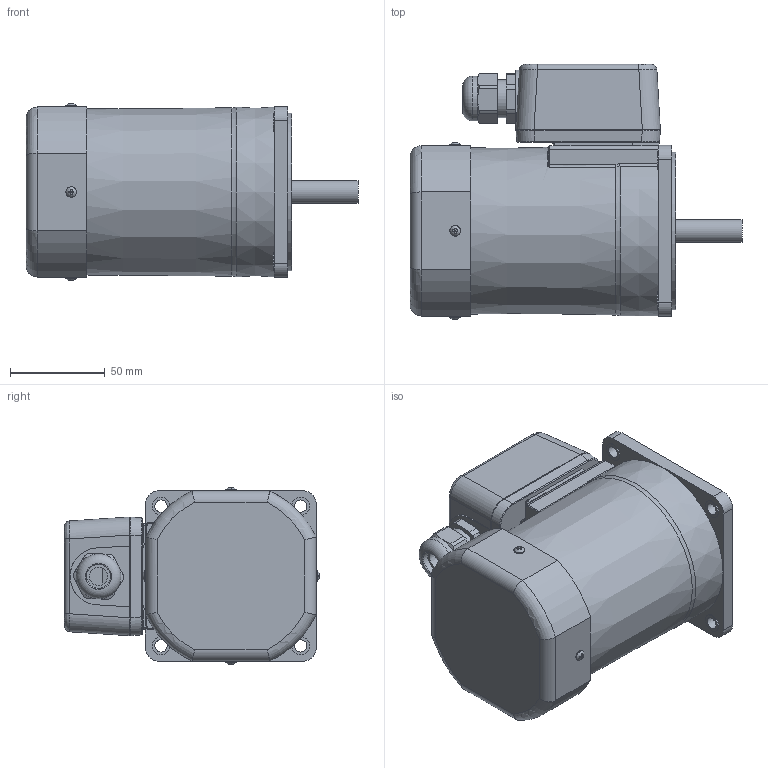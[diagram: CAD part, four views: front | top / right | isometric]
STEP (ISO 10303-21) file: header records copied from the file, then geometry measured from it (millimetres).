
FILE_DESCRIPTION((''),'2;1');
FILE_NAME('D:\STP파일\90W MOTOR\T BOX TYPE\S9I90S-T.stp','2013-05-20T18:49:26',('leebh'),(''),'Autodesk Inventor 2011','Autodesk Inventor 2011','');
FILE_SCHEMA(('AUTOMOTIVE_DESIGN { 1 0 10303 214 1 1 1 1 }'));
Length unit declared in the file: millimetre
Products named in the file (1): S9I90G-T1
Bounding box: 174.8 x 134.44 x 93.49 mm (x, y, z)
Volume: 1087757.8 mm3; surface area: 83530.2 mm2
Topology: 1 solids, 13 shells, 473 faces, 1160 edges, 738 vertices
Faces by surface type: plane 253, cylinder 124, bspline 55, torus 33, cone 8
Full cylindrical faces by diameter (mm): 2.55 x2, 3 x4, 3.5 x4, 5.6 x8, 6.3 x4, 6.5 x4, 9.5 x4, 12 x1, 12.5 x1, 15 x1, 20 x2, 21 x1, 23.6 x1, 40 x1, 83 x1
Entity records: 15906 total; most frequent: CARTESIAN_POINT 5018, ORIENTED_EDGE 2138, DIRECTION 2034, EDGE_CURVE 1069, AXIS2_PLACEMENT_3D 730, VERTEX_POINT 722, EDGE_LOOP 591, VECTOR 574
